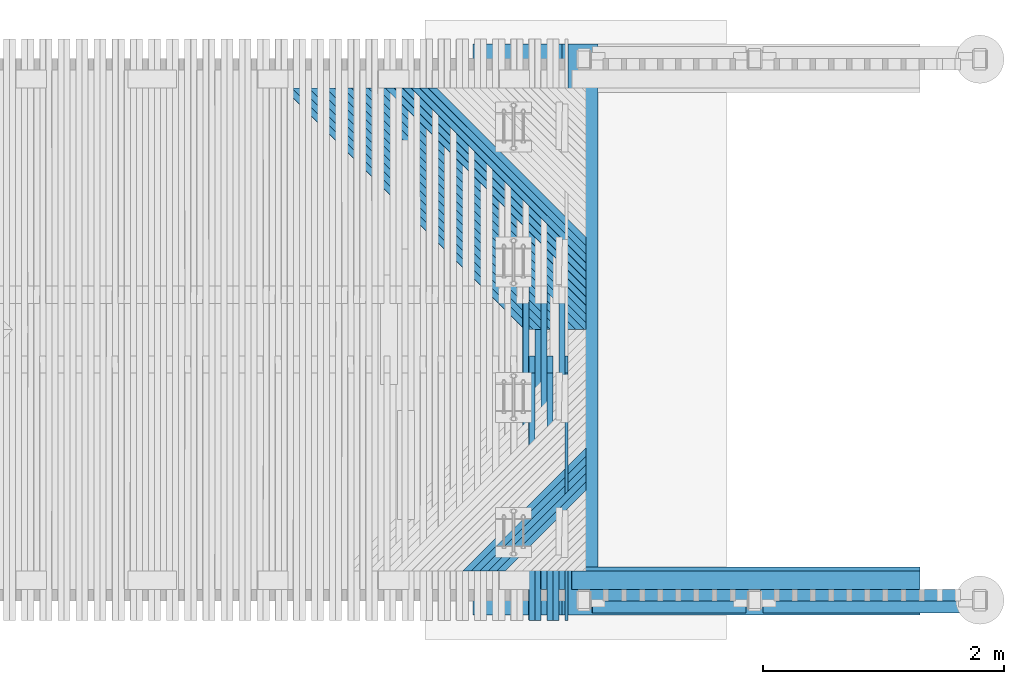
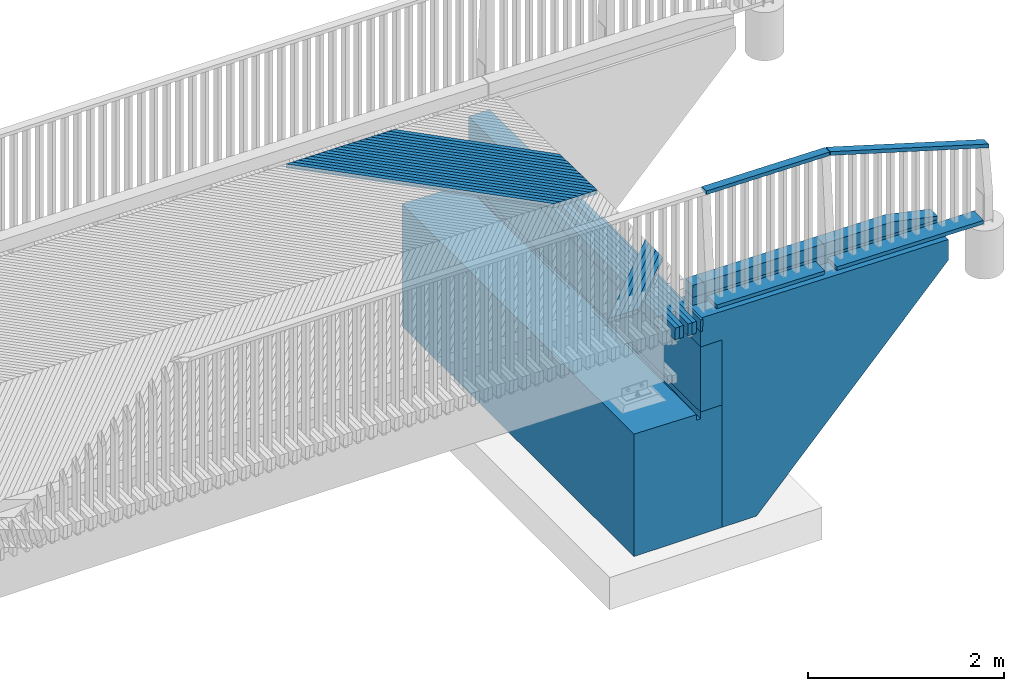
# One storey, part 42 of 47: 40 beams.
"""IFC2X3 building model written with IfcOpenShell, lengths in millimetres."""

import ifcopenshell
import ifcopenshell.guid

model = None  # the IFC model being written
_history = None  # IfcOwnerHistory: only IFC2X3 demands one
_inside = {}  # id of a spatial element -> (the spatial element, [elements in it])
_under = {}  # id of a project, library or spatial element -> (it, [spatial elements below it])
_declared = {}  # id of a project -> (the project, [libraries it declares])
_typed = {}  # id of a type object -> (the type object, [elements of that type])
_made_of = {}  # id of a material, layer set ... -> (it, [elements and type objects made of it])


def new_model(schema):
    """Start an empty IFC model of exactly this schema.

    Asked for "IFC4X3", IfcOpenShell would pick the latest addendum, in which some entities
    have other attributes; the version numbers below select the first issue.
    IFC2X3 requires an IfcOwnerHistory on every rooted entity: one is made here for all.
    """
    global model, _history
    if schema == "IFC4X3":
        model = ifcopenshell.file(schema_version=(4, 3, 0, 0))
    else:
        model = ifcopenshell.file(schema=schema)
    _inside.clear()
    _under.clear()
    _declared.clear()
    _typed.clear()
    _made_of.clear()
    _history = None
    if model.schema == "IFC2X3":
        org = make("IfcOrganization", Name="unknown")
        user = make(
            "IfcPersonAndOrganization",
            ThePerson=make("IfcPerson", FamilyName="unknown"),
            TheOrganization=org,
        )
        app = make(
            "IfcApplication",
            ApplicationDeveloper=org,
            Version="unknown",
            ApplicationFullName="unknown",
            ApplicationIdentifier="unknown",
        )
        _history = make(
            "IfcOwnerHistory",
            OwningUser=user,
            OwningApplication=app,
            ChangeAction="ADDED",
            CreationDate=0,
        )
    return model


def make(cls, **values):
    """One entity of the class cls with the attributes given. An attribute that is None is left unset."""
    return model.create_entity(
        cls, **{name: value for name, value in values.items() if value is not None}
    )


def rooted(cls, **values):
    """An entity with a GlobalId (a new one), such as an element, a storey or a relation."""
    return make(cls, GlobalId=ifcopenshell.guid.new(), OwnerHistory=_history, **values)


def si_unit(unit_type, name, prefix=None):
    """IfcSIUnit, for example si_unit("LENGTHUNIT", "METRE", prefix="MILLI")."""
    return make("IfcSIUnit", UnitType=unit_type, Prefix=prefix, Name=name)


def assignment(units):
    """IfcUnitAssignment: the units of a project."""
    return None if units is None else make("IfcUnitAssignment", Units=units)


def point(xyz):
    """IfcCartesianPoint."""
    return None if xyz is None else make("IfcCartesianPoint", Coordinates=xyz)


def direction(xyz):
    """IfcDirection."""
    return None if xyz is None else make("IfcDirection", DirectionRatios=xyz)


def frame(location, z_axis=None, x_axis=None):
    """IfcAxis2Placement3D, a coordinate frame: its origin and axes. An axis left out is left unset."""
    return make(
        "IfcAxis2Placement3D",
        Location=point(location),
        Axis=direction(z_axis),
        RefDirection=direction(x_axis),
    )


def origin_with_axes():
    """The frame at (0, 0, 0) with the z axis (0, 0, 1) and the x axis (1, 0, 0) written out."""
    return frame((0.0, 0.0, 0.0), z_axis=(0.0, 0.0, 1.0), x_axis=(1.0, 0.0, 0.0))


def place(relative_to, where):
    """IfcLocalPlacement: puts the frame where relative to a parent placement (None: the world)."""
    return make(
        "IfcLocalPlacement", PlacementRelTo=relative_to, RelativePlacement=where
    )


def context(
    kind, dimensions, precision=None, world=None, true_north=None, identifier=None
):
    """IfcGeometricRepresentationContext, for example the 3D "Model" context."""
    return make(
        "IfcGeometricRepresentationContext",
        ContextIdentifier=identifier,
        ContextType=kind,
        CoordinateSpaceDimension=dimensions,
        Precision=precision,
        WorldCoordinateSystem=world,
        TrueNorth=true_north,
    )


def subcontext(parent, identifier, kind, view, scale=None):
    """IfcGeometricRepresentationSubContext, for example "Body" below "Model"."""
    return make(
        "IfcGeometricRepresentationSubContext",
        ContextIdentifier=identifier,
        ContextType=kind,
        ParentContext=parent,
        TargetScale=scale,
        TargetView=view,
    )


def project(units=None, contexts=None):
    """IfcProject with its units and contexts."""
    return rooted(
        "IfcProject",
        Name="project",
        RepresentationContexts=contexts,
        UnitsInContext=assignment(units),
    )


def spatial(cls, under=None, at=None, **own):
    """A site, building, storey or space (cls), placed at a placement, below another one or the project."""
    s = rooted(cls, ObjectPlacement=at, **own)
    if under is not None:
        _under.setdefault(under.id(), (under, []))[1].append(s)
    return s


def faces_of(points, faces, orient=None, outer=None):
    """IfcFace entities. A face is a list of loops; a loop is a list of indices into points, from 0.

    orient and outer hold one flag for each loop. By default every Orientation is true, the
    first loop of a face is its IfcFaceOuterBound and the others are IfcFaceBound.
    """
    made = []
    for i, loops in enumerate(faces):
        bounds = []
        for j, loop in enumerate(loops):
            is_outer = j == 0 if outer is None else outer[i][j]
            bounds.append(
                make(
                    "IfcFaceOuterBound" if is_outer else "IfcFaceBound",
                    Bound=make("IfcPolyLoop", Polygon=[points[k] for k in loop]),
                    Orientation=True if orient is None else orient[i][j],
                )
            )
        made.append(make("IfcFace", Bounds=bounds))
    return made


def faceted_brep(points, faces, orient=None, outer=None, voids=None):
    """IfcFacetedBrep: a solid bounded by flat faces; with voids (closed shells), ...WithVoids."""
    shared = [point(p) for p in points]
    hull = make("IfcClosedShell", CfsFaces=faces_of(shared, faces, orient, outer))
    if voids is None:
        return make("IfcFacetedBrep", Outer=hull)
    return make(
        "IfcFacetedBrepWithVoids",
        Outer=hull,
        Voids=[
            make(cls, CfsFaces=faces_of(shared, fs, o, b)) for cls, fs, o, b in voids
        ],
    )


def shape(context_of_items, identifier, shape_type, items):
    """IfcShapeRepresentation: the items that make up one representation, for example the "Body"."""
    return make(
        "IfcShapeRepresentation",
        ContextOfItems=context_of_items,
        RepresentationIdentifier=identifier,
        RepresentationType=shape_type,
        Items=items,
    )


def material(Name=None, Category=None):
    """IfcMaterial."""
    return make("IfcMaterial", Name=Name, Category=Category)


def made_of(thing, what):
    """Note that an element or type object is made of a material, layer set ...; save() writes the relation."""
    if what is not None:
        _made_of.setdefault(what.id(), (what, []))[1].append(thing)
    return thing


def type_object(cls, material=None, **own):
    """A type object (cls), such as IfcWallType, which elements share."""
    return made_of(rooted(cls, **own), material)


def element(
    cls,
    number,
    at=None,
    inside=None,
    cuts=None,
    type_object=None,
    material=None,
    context=None,
    identifier="Body",
    shape_type=None,
    held_by="IfcProductDefinitionShape",
    body=None,
    shapes=None,
    **own,
):
    """One element of the class cls, such as IfcWall. Its Tag is "e" and its number.

    at: its placement. inside: the storey or other place that contains it. cuts: it is an
    opening in that element (IfcRelVoidsElement). A single representation is given by context,
    identifier, shape_type and body (its items); several are given by shapes. held_by: the class
    of the entity that holds the representations. save() writes the other relations.
    """
    e = rooted(cls, Tag="e%d" % number, ObjectPlacement=at, **own)
    if body is not None:
        shapes = [shape(context, identifier, shape_type, body)]
    if shapes is not None:
        e.Representation = make(held_by, Representations=shapes)
    if inside is not None:
        _inside.setdefault(inside.id(), (inside, []))[1].append(e)
    if cuts is not None:
        rooted(
            "IfcRelVoidsElement", RelatingBuildingElement=cuts, RelatedOpeningElement=e
        )
    if type_object is not None:
        _typed.setdefault(type_object.id(), (type_object, []))[1].append(e)
    return made_of(e, material)


def aggregate(whole, parts):
    """IfcRelAggregates: a whole, such as a stair, and the parts it consists of."""
    return rooted("IfcRelAggregates", RelatingObject=whole, RelatedObjects=parts)


def save(model, path):
    """Write the relations noted so far, then the file.

    IfcRelAggregates (storeys below a building ...), IfcRelContainedInSpatialStructure (elements
    in a storey), IfcRelDefinesByType, IfcRelAssociatesMaterial and IfcRelDeclares: one each for
    every whole, place, type object, material and project.
    """
    for whole, parts in _under.values():
        aggregate(whole, parts)
    for where, things in _inside.values():
        rooted(
            "IfcRelContainedInSpatialStructure",
            RelatedElements=things,
            RelatingStructure=where,
        )
    for kind, things in _typed.values():
        rooted("IfcRelDefinesByType", RelatedObjects=things, RelatingType=kind)
    for what, things in _made_of.values():
        rooted("IfcRelAssociatesMaterial", RelatedObjects=things, RelatingMaterial=what)
    for by, libraries in _declared.values():
        rooted("IfcRelDeclares", RelatingContext=by, RelatedDefinitions=libraries)
    model.write(path)


model = new_model("IFC2X3")

# Units and contexts
model_context = context("Model", 3, precision=1e-05, world=origin_with_axes())
body_context = subcontext(model_context, "Body", "Model", "MODEL_VIEW")
ifc_project = project(units=[si_unit("LENGTHUNIT", "METRE", prefix="MILLI"), si_unit("AREAUNIT", "SQUARE_METRE"), si_unit("VOLUMEUNIT", "CUBIC_METRE"), si_unit("MASSUNIT", "GRAM", prefix="KILO"), si_unit("TIMEUNIT", "SECOND"), si_unit("PLANEANGLEUNIT", "RADIAN"), si_unit("SOLIDANGLEUNIT", "STERADIAN"), si_unit("THERMODYNAMICTEMPERATUREUNIT", "DEGREE_CELSIUS"), si_unit("LUMINOUSINTENSITYUNIT", "LUMEN")], contexts=[model_context])

# Site, building, storey
site_placement = place(None, origin_with_axes())
site = spatial("IfcSite", under=ifc_project, at=site_placement, Name="Undefined", CompositionType="ELEMENT")
building_placement = place(site_placement, origin_with_axes())
building = spatial("IfcBuilding", under=site, at=building_placement, Name="Undefined", CompositionType="ELEMENT")
storey_placement = place(building_placement, origin_with_axes())
storey = spatial("IfcBuildingStorey", under=building, at=storey_placement, Name="Undefined", CompositionType="ELEMENT", Elevation=0.0)

# Beams
ifc_material_1 = material(Name="TIMBER/Timber_Undefined")
beam_type_1 = type_object("IfcBeamType", Name="95*45", PredefinedType="NOTDEFINED")
beam_1_placement = place(storey_placement, frame((18047.3455816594, 60167.5120919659, 4509.17778679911), z_axis=(0.0, -1.0, 0.0), x_axis=(-0.999901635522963, 0.0, 0.0140256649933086)))
element("IfcBeam", 1, at=beam_1_placement, inside=storey, type_object=beam_type_1, material=ifc_material_1, Name="YLÄJOHDE", ObjectType="95*45", context=body_context, shape_type="Brep", body=[
    faceted_brep([(10.030991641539, 22.4999999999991, -47.5), (10.030991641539, 22.4999999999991, 47.5), (1460.17402369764, 22.4999999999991, 47.5), (1460.17402369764, 22.4999999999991, -47.5), (10.662208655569, -22.5, 47.5), (1460.80524071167, -22.5, 47.5), (10.662208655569, -22.5, -47.5), (1460.80524071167, -22.5, -47.5)], [[[0, 1, 2, 3]], [[1, 4, 5, 2]], [[4, 6, 7, 5]], [[6, 0, 3, 7]], [[5, 7, 3, 2]], [[6, 4, 1, 0]]]),
])
beam_2_placement = place(storey_placement, frame((18040.5964588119, 60167.5099640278, 4510.12573356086), z_axis=(0.0, -1.0, 0.0), x_axis=(0.958249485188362, 0.0, -0.285933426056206)))
element("IfcBeam", 2, at=beam_2_placement, inside=storey, type_object=beam_type_1, material=ifc_material_1, Name="YLÄJOHDE", ObjectType="95*45", context=body_context, shape_type="Brep", body=[
    faceted_brep([(4.00216176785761e-05, 22.5000000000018, -47.5), (4.00216176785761e-05, 22.5000000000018, 47.5), (1946.25728182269, 22.5000000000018, 47.5), (1946.25728182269, 22.5000000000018, -47.5), (13.4276539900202, -22.4999999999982, 47.5), (1959.6848957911, -22.4999999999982, 47.5), (13.4276539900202, -22.4999999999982, -47.5), (1959.6848957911, -22.4999999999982, -47.5)], [[[0, 1, 2, 3]], [[1, 4, 5, 2]], [[4, 6, 7, 5]], [[6, 0, 3, 7]], [[5, 7, 3, 2]], [[6, 4, 1, 0]]]),
])
beam_type_2 = type_object("IfcBeamType", Name="195*45", PredefinedType="NOTDEFINED")
beam_3_placement = place(storey_placement, frame((19791.7186980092, 60117.5099700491, 3105.29183869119), z_axis=(0.0, -1.0, 0.0), x_axis=(-0.999901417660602, 0.0, 0.0140411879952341)))
element("IfcBeam", 3, at=beam_3_placement, inside=storey, type_object=beam_type_2, material=ifc_material_1, Name="BEAM", ObjectType="195*45", context=body_context, shape_type="Brep", body=[
    faceted_brep([(0.0, 22.5, -97.5), (0.0, 22.5, 97.5), (1724.99699880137, 22.5, 97.5), (1724.99699880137, 22.5, -97.5), (0.0, -22.5, 97.5), (1724.99699880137, -22.4999999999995, 97.5), (0.0, -22.5, -97.5), (1724.99699880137, -22.4999999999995, -97.5)], [[[0, 1, 2, 3]], [[1, 4, 5, 2]], [[4, 6, 7, 5]], [[6, 0, 3, 7]], [[5, 7, 3, 2]], [[6, 4, 1, 0]]]),
])
beam_4_placement = place(storey_placement, frame((17926.6993513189, 60117.5099700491, 3131.48945565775), z_axis=(0.0, -1.0, 0.0), x_axis=(-0.999901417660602, 0.0, 0.0140411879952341)))
element("IfcBeam", 4, at=beam_4_placement, inside=storey, type_object=beam_type_2, material=ifc_material_1, Name="BEAM", ObjectType="195*45", context=body_context, shape_type="Brep", body=[
    faceted_brep([(0.0, 22.5, -97.5), (0.0, 22.5, 97.5), (1275.1508080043, 22.5, 97.5), (1275.1508080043, 22.5, -97.5), (0.0, -22.5, 97.5), (1275.15080800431, -22.4999999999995, 97.5), (0.0, -22.5, -97.5), (1275.15080800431, -22.4999999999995, -97.5)], [[[0, 1, 2, 3]], [[1, 4, 5, 2]], [[4, 6, 7, 5]], [[6, 0, 3, 7]], [[5, 7, 3, 2]], [[6, 4, 1, 0]]]),
])
beam_type_3 = type_object("IfcBeamType", Name="150*100", PredefinedType="NOTDEFINED")
beam_5_placement = place(storey_placement, frame((19364.0305880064, 60289.9999999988, 3118.6757290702), z_axis=(0.0, -1.0, 0.0), x_axis=(-0.999904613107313, 0.0, 0.0138117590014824)))
element("IfcBeam", 5, at=beam_5_placement, inside=storey, type_object=beam_type_3, material=ifc_material_1, Name="TÖRMÄYSJOHDE", ObjectType="150*100", context=body_context, shape_type="Brep", body=[
    faceted_brep([(-3.63797880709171e-12, 50.0, -75.0), (-3.63797880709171e-12, 50.0, 75.0), (2885.27521749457, 50.0, 75.0), (2885.27521749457, 50.0, -75.0), (0.0, -49.9999999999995, 75.0), (2885.27521749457, -49.9999999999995, 75.0), (0.0, -49.9999999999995, -75.0), (2885.27521749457, -49.9999999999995, -75.0)], [[[0, 1, 2, 3]], [[1, 4, 5, 2]], [[4, 6, 7, 5]], [[6, 0, 3, 7]], [[5, 7, 3, 2]], [[6, 4, 1, 0]]]),
])
beam_type_4 = type_object("IfcBeamType", Name="150*150", PredefinedType="NOTDEFINED")
beam_6_placement = place(storey_placement, frame((19366.0358819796, 60289.9999999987, 3243.66334439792), z_axis=(0.0, -1.0, 0.0), x_axis=(-0.999904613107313, 0.0, 0.0138117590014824)))
element("IfcBeam", 6, at=beam_6_placement, inside=storey, type_object=beam_type_4, material=ifc_material_1, Name="TÖRMÄYSJOHDE", ObjectType="150*150", context=body_context, shape_type="Brep", body=[
    faceted_brep([(2885.27521749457, -74.9999999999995, 75.0), (2885.27521749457, -74.9999999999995, -75.0), (2885.27521749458, 75.0, -75.0), (2885.27521749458, 75.0, 75.0), (3.63797880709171e-12, 75.0000000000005, -75.0), (3.63797880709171e-12, 75.0000000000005, 75.0), (3.63797880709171e-12, 33.1222400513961, -75.0), (3.63797880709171e-12, 33.1222400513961, 75.0), (529.511118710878, -75.0, 75.0), (529.511118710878, -75.0, -75.0)], [[[0, 1, 2, 3]], [[4, 5, 3, 2]], [[5, 4, 6, 7]], [[0, 3, 5, 7, 8]], [[1, 0, 8, 9]], [[4, 2, 1, 9, 6]], [[8, 7, 6, 9]]]),
])
ifc_material_2 = material(Name="CONCRETE/Concrete_Undefined")
beam_type_5 = type_object("IfcBeamType", Name="2800*400", PredefinedType="NOTDEFINED")
beam_7_placement = place(storey_placement, frame((16430.3400332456, 60200.0, 1712.66804762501), z_axis=(0.0140428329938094, 0.0, 0.999901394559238), x_axis=(0.999901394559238, 0.0, -0.0140428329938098)))
element("IfcBeam", 7, at=beam_7_placement, inside=storey, type_object=beam_type_5, material=ifc_material_2, Name="SIIPIMUURI", ObjectType="2800*400", context=body_context, shape_type="Brep", body=[
    faceted_brep([(5.63100911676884e-07, 200.0, 1400.0), (0.280884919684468, -200.000000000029, 1380.0), (2915.56834818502, -200.0, 1380.0), (2915.28746382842, 200.0, 1400.0), (270.457242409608, 199.999999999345, -54.8754727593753), (270.457242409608, -200.0, -54.8754727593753), (255.29098277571, -200.0, 1025.01803336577), (255.29098277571, 199.999999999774, 1025.01803336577), (288.066954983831, 200.0, -1308.75182153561), (288.066954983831, -200.0, -1308.75182153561), (697.173583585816, 200.0, -1303.00623892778), (697.173583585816, -200.0, -1303.00623892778), (2919.22031514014, 200.0, 1119.96651154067), (2919.22031514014, -200.0, 1119.96651154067), (5.31563413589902, -200.0, 1021.50732511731), (5.31563413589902, 199.999999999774, 1021.50732511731)], [[[0, 1, 2, 3]], [[4, 5, 6, 7]], [[8, 9, 5, 4]], [[10, 11, 9, 8]], [[12, 13, 11, 10]], [[13, 12, 3, 2]], [[14, 6, 5, 9, 11, 13, 2, 1]], [[7, 6, 14, 15]], [[3, 12, 10, 8, 4, 7, 15, 0]], [[15, 14, 1, 0]]]),
])
beam_type_6 = type_object("IfcBeamType", Name="810*250", PredefinedType="NOTDEFINED")
beam_8_placement = place(storey_placement, frame((16575.0, 60000.0, 2329.0), z_axis=(0.0, 0.0, 1.0), x_axis=(0.0, 1.0, 0.0)))
element("IfcBeam", 8, at=beam_8_placement, inside=storey, type_object=beam_type_6, material=ifc_material_2, Name="OTSAMUURI", ObjectType="810*250", context=body_context, shape_type="Brep", body=[
    faceted_brep([(0.0, 125.0, -405.0), (0.0, 125.0, 405.0), (4730.0, 125.0, 405.0), (4730.0, 125.0, -405.0), (0.0, -125.0, 405.0), (4730.0, -125.0, 405.0), (0.0, -125.0, -405.0), (4730.0, -125.0, -405.0)], [[[0, 1, 2, 3]], [[1, 4, 5, 2]], [[4, 6, 7, 5]], [[6, 0, 3, 7]], [[5, 7, 3, 2]], [[6, 4, 1, 0]]]),
])
beam_type_7 = type_object("IfcBeamType", Name="1524*1035", PredefinedType="NOTDEFINED")
beam_9_placement = place(storey_placement, frame((16182.5, 60000.0, 1162.0), z_axis=(0.0, 0.0, 1.0), x_axis=(0.0, 1.0, 0.0)))
element("IfcBeam", 9, at=beam_9_placement, inside=storey, type_object=beam_type_7, material=ifc_material_2, Name="LAAKERIPALKKI", ObjectType="1524*1035", context=body_context, shape_type="Brep", body=[
    faceted_brep([(4730.0, -217.5, 747.0), (2367.30822656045, -217.5, 747.0), (2367.55223388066, -217.5, 737.442575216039), (4730.0, -217.5, 676.997414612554), (2367.55223388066, -267.5, 737.442575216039), (4730.0, -267.5, 676.997414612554), (4730.0, -267.5, 762.0), (2366.92526672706, -267.5, 762.0), (4730.0, 517.5, -762.0), (0.0, 517.5, -762.0), (0.0, 517.5, 762.0), (4730.0, 517.5, 762.0), (0.0, -517.5, -762.0), (4730.0, -517.5, -762.0), (0.0, -517.5, 762.0), (4730.0, -517.5, 762.0), (2363.07473327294, -267.5, 762.0), (0.0, -267.5, 762.0), (0.0, -267.5, 676.997414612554), (0.0, -217.5, 676.997414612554), (0.0, -217.5, 747.0), (2362.45109111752, -267.5, 737.312339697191), (2362.45109111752, -217.5, 737.312339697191), (2362.69177343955, -217.5, 747.0)], [[[0, 1, 2, 3]], [[3, 2, 4, 5]], [[6, 5, 4, 7]], [[8, 9, 10, 11]], [[12, 9, 8, 13]], [[14, 12, 13, 15]], [[16, 17, 14, 15, 6, 7]], [[9, 12, 14, 17, 18, 19, 20, 10]], [[16, 7, 4, 21, 18, 17]], [[18, 21, 4, 2, 22, 19]], [[20, 19, 22, 2, 1, 23]], [[11, 10, 20, 23, 1, 0]], [[15, 13, 8, 11, 0, 3, 5, 6]]]),
])
beam_type_8 = type_object("IfcBeamType", Name="150*50", PredefinedType="NOTDEFINED")
beam_10_placement = place(storey_placement, frame((16451.1846639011, 59958.5561921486, 3028.66243681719), z_axis=(0.0139555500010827, -0.0199960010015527, 0.99970265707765), x_axis=(0.000278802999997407, 0.999800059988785, 0.0199940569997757)))
element("IfcBeam", 10, at=beam_10_placement, inside=storey, type_object=beam_type_8, material=ifc_material_1, Name="BEAM", ObjectType="150*50", context=body_context, shape_type="Brep", body=[
    faceted_brep([(-6.19911588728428e-09, 25.0, 75.0), (6.18456397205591e-09, 24.9999999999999, -75.0), (-1.82408257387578e-08, -0.906727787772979, -74.9999999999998), (1.82335497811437e-08, 0.174188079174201, 75.0), (2047.96936058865, 0.468714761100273, 75.0), (2047.96935975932, 25.0, 75.0), (2186.42645864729, 25.0, -75.0), (2186.42645910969, -0.592289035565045, -74.9999999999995)], [[[0, 1, 2, 3]], [[0, 3, 4, 5]], [[1, 0, 5, 6]], [[2, 1, 6, 7]], [[3, 2, 7, 4]], [[6, 5, 4, 7]]]),
])
beam_11_placement = place(storey_placement, frame((16401.1758960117, 60216.5046076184, 3034.52066157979), z_axis=(0.0139555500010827, -0.0199960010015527, 0.99970265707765), x_axis=(0.000278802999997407, 0.999800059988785, 0.0199940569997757)))
element("IfcBeam", 11, at=beam_11_placement, inside=storey, type_object=beam_type_8, material=ifc_material_1, Name="BEAM", ObjectType="150*50", context=body_context, shape_type="Brep", body=[
    faceted_brep([(6.18456397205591e-09, -24.9999999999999, -75.0000000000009), (-6.1918399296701e-09, -24.9999999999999, 74.9999999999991), (-6.19911588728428e-09, 25.0, 75.0), (6.18456397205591e-09, 24.9999999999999, -75.0), (2375.00494220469, 24.9999999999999, -75.0000000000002), (2375.00494218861, -25.0, -75.0), (2510.59248711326, -25.0, 60.5875455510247), (2150.42518973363, -25.0, 75.0000000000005), (2150.42518840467, 25.0, 74.9999999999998), (2510.59248707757, 25.0, 60.5875454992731)], [[[0, 1, 2, 3]], [[0, 3, 4, 5]], [[1, 0, 5, 6, 7]], [[2, 1, 7, 8]], [[4, 3, 2, 8, 9]], [[5, 4, 9, 6]], [[8, 7, 6, 9]]]),
])
beam_12_placement = place(storey_placement, frame((16351.2041883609, 59958.5561921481, 3030.05660612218), z_axis=(0.0138731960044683, -0.0199960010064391, 0.99970380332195), x_axis=(0.000277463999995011, 0.999800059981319, 0.0199940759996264)))
element("IfcBeam", 12, at=beam_12_placement, inside=storey, type_object=beam_type_8, material=ifc_material_1, Name="BEAM", ObjectType="150*50", context=body_context, shape_type="Brep", body=[
    faceted_brep([(6.18456397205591e-09, -24.9999999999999, -75.0000000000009), (-6.1918399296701e-09, -24.9999999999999, 74.9999999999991), (-6.19911588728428e-09, 25.0, 75.0), (6.18456397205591e-09, 24.9999999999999, -75.0), (2633.00494983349, 25.0000000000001, -75.0000000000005), (2633.00495050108, -24.9999999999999, -75.0000000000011), (2768.59248707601, -25.0, 60.5875366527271), (2408.42499905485, -25.0, 74.9999999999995), (2408.42501428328, 25.0000000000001, 74.9999999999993), (2768.5924870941, 25.0, 60.5875375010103)], [[[0, 1, 2, 3]], [[0, 3, 4, 5]], [[1, 0, 5, 6, 7]], [[2, 1, 7, 8]], [[4, 3, 2, 8, 9]], [[5, 4, 9, 6]], [[8, 7, 6, 9]]]),
])
beam_13_placement = place(storey_placement, frame((16301.1704246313, 59958.5561921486, 3030.75005682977), z_axis=(0.0137063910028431, -0.0199960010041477, 0.999706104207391), x_axis=(0.000273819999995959, 0.999800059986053, 0.0199941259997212)))
element("IfcBeam", 13, at=beam_13_placement, inside=storey, type_object=beam_type_8, material=ifc_material_1, Name="BEAM", ObjectType="150*50", context=body_context, shape_type="Brep", body=[
    faceted_brep([(6.18456397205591e-09, -24.9999999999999, -75.0000000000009), (-6.1918399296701e-09, -24.9999999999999, 74.9999999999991), (-6.19911588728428e-09, 25.0, 75.0), (6.18456397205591e-09, 24.9999999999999, -75.0), (2047.96936034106, -25.0000000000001, 75.0), (2047.96935975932, 25.0, 75.0), (2186.42645864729, 25.0, -75.0), (2186.42645915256, -25.0000000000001, -75.0)], [[[0, 1, 2, 3]], [[2, 1, 4, 5]], [[3, 2, 5, 6]], [[0, 3, 6, 7]], [[1, 0, 7, 4]], [[4, 7, 6, 5]]]),
])
beam_14_placement = place(storey_placement, frame((16251.1601982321, 60216.5046076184, 3036.59581757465), z_axis=(0.0137063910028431, -0.0199960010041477, 0.999706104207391), x_axis=(0.000273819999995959, 0.999800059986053, 0.0199941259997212)))
element("IfcBeam", 14, at=beam_14_placement, inside=storey, type_object=beam_type_8, material=ifc_material_1, Name="BEAM", ObjectType="150*50", context=body_context, shape_type="Brep", body=[
    faceted_brep([(6.18456397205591e-09, -24.9999999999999, -75.0000000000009), (-6.1918399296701e-09, -24.9999999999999, 74.9999999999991), (-6.19911588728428e-09, 25.0, 75.0), (6.18456397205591e-09, 24.9999999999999, -75.0), (2375.00494220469, 24.9999999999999, -75.0000000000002), (2375.00494218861, -25.0, -75.0), (2510.59248711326, -25.0, 60.5875455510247), (2150.42518973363, -25.0, 75.0000000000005), (2150.42518840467, 25.0, 74.9999999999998), (2510.59248707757, 25.0, 60.5875454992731)], [[[0, 1, 2, 3]], [[0, 3, 4, 5]], [[1, 0, 5, 6, 7]], [[2, 1, 7, 8]], [[4, 3, 2, 8, 9]], [[5, 4, 9, 6]], [[8, 7, 6, 9]]]),
])
beam_15_placement = place(storey_placement, frame((16201.1896047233, 59958.5561921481, 3032.11930765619), z_axis=(0.0136240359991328, -0.0199960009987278, 0.999707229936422), x_axis=(0.000272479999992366, 0.999800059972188, 0.0199941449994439)))
element("IfcBeam", 15, at=beam_15_placement, inside=storey, type_object=beam_type_8, material=ifc_material_1, Name="BEAM", ObjectType="150*50", context=body_context, shape_type="Brep", body=[
    faceted_brep([(6.18456397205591e-09, -24.9999999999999, -75.0000000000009), (-6.1918399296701e-09, -24.9999999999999, 74.9999999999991), (-6.19911588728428e-09, 25.0, 75.0), (6.18456397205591e-09, 24.9999999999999, -75.0), (2633.00494983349, 25.0000000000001, -75.0000000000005), (2633.00495050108, -24.9999999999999, -75.0000000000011), (2768.59248707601, -25.0, 60.5875366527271), (2408.42499905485, -25.0, 74.9999999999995), (2408.42501428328, 25.0000000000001, 74.9999999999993), (2768.5924870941, 25.0, 60.5875375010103)], [[[0, 1, 2, 3]], [[0, 3, 4, 5]], [[1, 0, 5, 6, 7]], [[2, 1, 7, 8]], [[4, 3, 2, 8, 9]], [[5, 4, 9, 6]], [[8, 7, 6, 9]]]),
])
beam_16_placement = place(storey_placement, frame((16151.1556697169, 59958.5561921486, 3032.80028827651), z_axis=(0.013457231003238, -0.0199960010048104, 0.99970948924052), x_axis=(0.000268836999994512, 0.999800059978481, 0.0199941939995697)))
element("IfcBeam", 16, at=beam_16_placement, inside=storey, type_object=beam_type_8, material=ifc_material_1, Name="BEAM", ObjectType="150*50", context=body_context, shape_type="Brep", body=[
    faceted_brep([(6.18456397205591e-09, -24.9999999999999, -75.0000000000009), (-6.1918399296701e-09, -24.9999999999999, 74.9999999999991), (-6.19911588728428e-09, 25.0, 75.0), (6.18456397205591e-09, 24.9999999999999, -75.0), (2047.96936034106, -25.0000000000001, 75.0), (2047.96935975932, 25.0, 75.0), (2186.42645864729, 25.0, -75.0), (2186.42645915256, -25.0000000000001, -75.0)], [[[0, 1, 2, 3]], [[2, 1, 4, 5]], [[3, 2, 5, 6]], [[0, 3, 6, 7]], [[1, 0, 7, 4]], [[4, 7, 6, 5]]]),
])
beam_17_placement = place(storey_placement, frame((16101.1439879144, 60216.5046076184, 3038.63358464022), z_axis=(0.013457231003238, -0.0199960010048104, 0.99970948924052), x_axis=(0.000268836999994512, 0.999800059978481, 0.0199941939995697)))
element("IfcBeam", 17, at=beam_17_placement, inside=storey, type_object=beam_type_8, material=ifc_material_1, Name="BEAM", ObjectType="150*50", context=body_context, shape_type="Brep", body=[
    faceted_brep([(6.18456397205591e-09, -24.9999999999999, -75.0000000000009), (-6.1918399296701e-09, -24.9999999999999, 74.9999999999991), (-6.19911588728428e-09, 25.0, 75.0), (6.18456397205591e-09, 24.9999999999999, -75.0), (2375.00494220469, 24.9999999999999, -75.0000000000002), (2375.00494218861, -25.0, -75.0), (2510.59248711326, -25.0, 60.5875455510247), (2150.42518973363, -25.0, 75.0000000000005), (2150.42518840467, 25.0, 74.9999999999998), (2510.59248707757, 25.0, 60.5875454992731)], [[[0, 1, 2, 3]], [[0, 3, 4, 5]], [[1, 0, 5, 6, 7]], [[2, 1, 7, 8]], [[4, 3, 2, 8, 9]], [[5, 4, 9, 6]], [[8, 7, 6, 9]]]),
])
beam_type_9 = type_object("IfcBeamType", Name="50*50", PredefinedType="NOTDEFINED")
beam_18_placement = place(storey_placement, frame((17895.3052888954, 62364.5001003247, 3154.80495489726), z_axis=(0.706807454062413, -0.706981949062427, -0.0244897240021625), x_axis=(-0.707254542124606, -0.706948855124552, -0.00378535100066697)))
element("IfcBeam", 18, at=beam_18_placement, inside=storey, type_object=beam_type_9, material=ifc_material_1, Name="BEAM", ObjectType="50*50", context=body_context, shape_type="Brep", body=[
    faceted_brep([(2802.92643296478, -25.0000000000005, 25.0000000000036), (2852.92877373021, -25.0000000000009, -24.9999999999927), (2854.34301907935, 24.9999999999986, -24.9999999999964), (2804.3406783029, 24.9999999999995, 25.0000000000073), (1805.95401836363, 24.9999999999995, -25.0000000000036), (1855.9224110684, 24.9999999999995, 25.0), (1856.95717342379, -25.0, 24.9999999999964), (1806.98878071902, -25.0000000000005, -24.9999999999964)], [[[0, 1, 2, 3]], [[3, 2, 4, 5]], [[0, 3, 5, 6]], [[1, 0, 6, 7]], [[2, 1, 7, 4]], [[6, 5, 4, 7]]]),
])
beam_19_placement = place(storey_placement, frame((17824.5905388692, 62364.5001003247, 3155.96311087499), z_axis=(0.706810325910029, -0.706981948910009, -0.0244067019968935), x_axis=(-0.707254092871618, -0.706948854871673, -0.00386842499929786)))
element("IfcBeam", 19, at=beam_19_placement, inside=storey, type_object=beam_type_9, material=ifc_material_1, Name="BEAM", ObjectType="50*50", context=body_context, shape_type="Brep", body=[
    faceted_brep([(2802.92643296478, -25.0000000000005, 25.0000000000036), (2852.92877373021, -25.0000000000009, -24.9999999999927), (2854.34301907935, 24.9999999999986, -24.9999999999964), (2804.3406783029, 24.9999999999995, 25.0000000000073), (1705.97428604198, 24.9999999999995, -25.0), (1755.94291351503, 24.9999999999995, 25.0), (1756.96937511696, -25.0, 24.9999999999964), (1707.00074764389, -25.0, -25.0000000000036)], [[[0, 1, 2, 3]], [[3, 2, 4, 5]], [[0, 3, 5, 6]], [[1, 0, 6, 7]], [[2, 1, 7, 4]], [[6, 5, 4, 7]]]),
])
beam_20_placement = place(storey_placement, frame((17753.8756532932, 62364.5001003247, 3157.11296064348), z_axis=(0.706813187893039, -0.706981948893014, -0.0243236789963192), x_axis=(-0.707253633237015, -0.706948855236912, -0.00395150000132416)))
element("IfcBeam", 20, at=beam_20_placement, inside=storey, type_object=beam_type_9, material=ifc_material_1, Name="BEAM", ObjectType="50*50", context=body_context, shape_type="Brep", body=[
    faceted_brep([(2802.92643296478, -25.0000000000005, 25.0000000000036), (2852.92877373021, -25.0000000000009, -24.9999999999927), (2854.34301907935, 24.9999999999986, -24.9999999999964), (2804.3406783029, 24.9999999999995, 25.0000000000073), (1605.99425901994, 25.0, -25.0000000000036), (1655.96312129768, 25.0000000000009, 25.0000000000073), (1656.98128205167, -25.0, 25.0000000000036), (1607.01241977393, -24.9999999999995, -25.0000000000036)], [[[0, 1, 2, 3]], [[3, 2, 4, 5]], [[0, 3, 5, 6]], [[1, 0, 6, 7]], [[2, 1, 7, 4]], [[6, 5, 4, 7]]]),
])
beam_21_placement = place(storey_placement, frame((17683.1606331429, 62364.5001003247, 3158.25450418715), z_axis=(0.706816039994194, -0.706981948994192, -0.0242406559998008), x_axis=(-0.707253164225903, -0.706948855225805, -0.0040345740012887)))
element("IfcBeam", 21, at=beam_21_placement, inside=storey, type_object=beam_type_9, material=ifc_material_1, Name="BEAM", ObjectType="50*50", context=body_context, shape_type="Brep", body=[
    faceted_brep([(2802.92643296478, -25.0000000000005, 25.0000000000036), (2852.92877373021, -25.0000000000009, -24.9999999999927), (2854.34301907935, 24.9999999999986, -24.9999999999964), (2804.3406783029, 24.9999999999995, 25.0000000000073), (1506.01393205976, 25.0000000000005, -24.9999999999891), (1555.98302910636, 25.0, 25.0000000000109), (1556.99288906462, -25.0, 25.0000000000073), (1507.02379201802, -24.9999999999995, -24.9999999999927)], [[[0, 1, 2, 3]], [[3, 2, 4, 5]], [[0, 3, 5, 6]], [[1, 0, 6, 7]], [[2, 1, 7, 4]], [[6, 5, 4, 7]]]),
])
beam_22_placement = place(storey_placement, frame((17612.4454793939, 62364.5001003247, 3159.38774149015), z_axis=(0.706818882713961, -0.706981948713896, -0.0241576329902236), x_axis=(-0.70725268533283, -0.706948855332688, -0.00411764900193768)))
element("IfcBeam", 22, at=beam_22_placement, inside=storey, type_object=beam_type_9, material=ifc_material_1, Name="BEAM", ObjectType="50*50", context=body_context, shape_type="Brep", body=[
    faceted_brep([(2802.92643296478, -25.0000000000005, 25.0000000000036), (2852.92877373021, -25.0000000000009, -24.9999999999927), (2854.34301907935, 24.9999999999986, -24.9999999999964), (2804.3406783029, 24.9999999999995, 25.0000000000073), (1406.03330360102, 25.0000000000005, -25.0), (1456.00263545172, 24.9999999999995, 24.9999999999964), (1457.0041945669, -25.0000000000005, 25.0000000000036), (1407.03486271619, -24.9999999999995, -25.0)], [[[0, 1, 2, 3]], [[3, 2, 4, 5]], [[0, 3, 5, 6]], [[1, 0, 6, 7]], [[2, 1, 7, 4]], [[6, 5, 4, 7]]]),
])
beam_23_placement = place(storey_placement, frame((17329.583547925, 62365.4998996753, 3163.83762798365), z_axis=(0.706830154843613, 0.706981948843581, -0.0238255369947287), x_axis=(-0.70725067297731, 0.706948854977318, -0.00444994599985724)))
element("IfcBeam", 23, at=beam_23_placement, inside=storey, type_object=beam_type_9, material=ifc_material_1, Name="BEAM", ObjectType="50*50", context=body_context, shape_type="Brep", body=[
    faceted_brep([(2804.34067830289, -24.9999999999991, 25.0), (2854.34301907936, -24.9999999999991, -25.0), (2852.92877373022, 25.0000000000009, -25.0), (2802.92643296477, 25.0000000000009, 25.0), (1057.04634223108, 24.9999999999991, 25.0000000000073), (1056.07798651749, -25.0000000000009, 25.0000000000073), (1006.1077155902, -25.0000000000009, -25.0000000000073), (1007.07607130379, 24.9999999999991, -25.0000000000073)], [[[0, 1, 2, 3]], [[0, 3, 4, 5]], [[1, 0, 5, 6]], [[2, 1, 6, 7]], [[3, 2, 7, 4]], [[6, 5, 4, 7]]]),
])
beam_24_placement = place(storey_placement, frame((17258.8677408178, 62365.4998996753, 3164.92933385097), z_axis=(0.706832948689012, 0.706981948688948, -0.0237425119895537), x_axis=(-0.707250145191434, 0.706948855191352, -0.00453302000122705)))
element("IfcBeam", 24, at=beam_24_placement, inside=storey, type_object=beam_type_9, material=ifc_material_1, Name="BEAM", ObjectType="50*50", context=body_context, shape_type="Brep", body=[
    faceted_brep([(2804.34067830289, -24.9999999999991, 25.0), (2854.34301907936, -24.9999999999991, -25.0), (2852.92877373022, 25.0000000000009, -25.0), (2802.92643296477, 25.0000000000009, 25.0), (957.056097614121, 25.0, 25.0000000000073), (956.096042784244, -25.0, 25.0), (906.12553705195, -25.0, -25.0), (907.085591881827, 25.0, -24.9999999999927)], [[[0, 1, 2, 3]], [[0, 3, 4, 5]], [[1, 0, 5, 6]], [[2, 1, 6, 7]], [[3, 2, 7, 4]], [[6, 5, 4, 7]]]),
])
beam_25_placement = place(storey_placement, frame((17188.1518059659, 62365.4998996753, 3166.01273338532), z_axis=(0.706835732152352, 0.706981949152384, -0.0236594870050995), x_axis=(-0.707249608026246, 0.706948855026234, -0.00461609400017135)))
element("IfcBeam", 25, at=beam_25_placement, inside=storey, type_object=beam_type_9, material=ifc_material_1, Name="BEAM", ObjectType="50*50", context=body_context, shape_type="Brep", body=[
    faceted_brep([(2804.34067830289, -24.9999999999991, 25.0), (2854.34301907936, -24.9999999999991, -25.0), (2852.92877373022, 25.0000000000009, -25.0), (2802.92643296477, 25.0000000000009, 25.0), (857.065534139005, 25.0, 25.0), (856.113780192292, -25.0, 25.0), (806.143039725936, -24.9999999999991, -24.9999999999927), (807.094793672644, 25.0, -25.0000000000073)], [[[0, 1, 2, 3]], [[0, 3, 4, 5]], [[1, 0, 5, 6]], [[2, 1, 6, 7]], [[3, 2, 7, 4]], [[6, 5, 4, 7]]]),
])
beam_26_placement = place(storey_placement, frame((17117.4357443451, 62365.4998996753, 3167.08782657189), z_axis=(0.706838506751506, 0.706981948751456, -0.0235764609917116), x_axis=(-0.707249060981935, 0.706948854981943, -0.00469916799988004)))
element("IfcBeam", 26, at=beam_26_placement, inside=storey, type_object=beam_type_9, material=ifc_material_1, Name="BEAM", ObjectType="50*50", context=body_context, shape_type="Brep", body=[
    faceted_brep([(2804.34067830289, -24.9999999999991, 25.0), (2854.34301907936, -24.9999999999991, -25.0), (2852.92877373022, 25.0000000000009, -25.0), (2802.92643296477, 25.0000000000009, 25.0), (757.074649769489, 25.0000000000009, 25.0000000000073), (756.131196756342, -25.0, 25.0), (706.160221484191, -25.0, -24.9999999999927), (707.103674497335, 25.0, -25.0000000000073)], [[[0, 1, 2, 3]], [[0, 3, 4, 5]], [[1, 0, 5, 6]], [[2, 1, 6, 7]], [[3, 2, 7, 4]], [[6, 5, 4, 7]]]),
])
beam_27_placement = place(storey_placement, frame((17046.7195569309, 62365.4998996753, 3168.15461339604), z_axis=(0.706841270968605, 0.706981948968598, -0.0234934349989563), x_axis=(-0.707248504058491, 0.706948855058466, -0.00478224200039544)))
element("IfcBeam", 27, at=beam_27_placement, inside=storey, type_object=beam_type_9, material=ifc_material_1, Name="BEAM", ObjectType="50*50", context=body_context, shape_type="Brep", body=[
    faceted_brep([(2804.34067830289, -24.9999999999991, 25.0), (2854.34301907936, -24.9999999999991, -25.0), (2852.92877373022, 25.0000000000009, -25.0), (2802.92643296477, 25.0000000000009, 25.0), (657.083441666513, 25.0000000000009, 25.0000000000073), (656.14828958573, -24.9999999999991, 25.0000000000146), (606.177079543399, -24.9999999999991, -24.9999999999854), (607.112231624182, 25.0000000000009, -24.9999999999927)], [[[0, 1, 2, 3]], [[0, 3, 4, 5]], [[1, 0, 5, 6]], [[2, 1, 6, 7]], [[3, 2, 7, 4]], [[6, 5, 4, 7]]]),
])
beam_28_placement = place(storey_placement, frame((16976.0032446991, 62365.4998996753, 3169.21309384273), z_axis=(0.70684402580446, 0.706981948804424, -0.0234104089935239), x_axis=(-0.707247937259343, 0.706948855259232, -0.00486531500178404)))
element("IfcBeam", 28, at=beam_28_placement, inside=storey, type_object=beam_type_9, material=ifc_material_1, Name="BEAM", ObjectType="50*50", context=body_context, shape_type="Brep", body=[
    faceted_brep([(2804.34067830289, -24.9999999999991, 25.0), (2854.34301907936, -24.9999999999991, -25.0), (2852.92877373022, 25.0000000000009, -25.0), (2802.92643296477, 25.0000000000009, 25.0), (557.091907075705, 25.0, 25.0), (556.165055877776, -24.9999999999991, 25.0), (506.193611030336, -24.9999999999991, -25.0), (507.120462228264, 25.0000000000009, -24.9999999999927)], [[[0, 1, 2, 3]], [[0, 3, 4, 5]], [[1, 0, 5, 6]], [[2, 1, 6, 7]], [[3, 2, 7, 4]], [[6, 5, 4, 7]]]),
])
beam_29_placement = place(storey_placement, frame((16905.2868086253, 62365.4998996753, 3170.26326789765), z_axis=(0.706846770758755, 0.70698194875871, -0.0233273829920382), x_axis=(-0.707247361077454, 0.706948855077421, -0.00494838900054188)))
element("IfcBeam", 29, at=beam_29_placement, inside=storey, type_object=beam_type_9, material=ifc_material_1, Name="BEAM", ObjectType="50*50", context=body_context, shape_type="Brep", body=[
    faceted_brep([(2804.34067830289, -24.9999999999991, 25.0), (2854.34301907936, -24.9999999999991, -25.0), (2852.92877373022, 25.0000000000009, -25.0), (2802.92643296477, 25.0000000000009, 25.0), (457.100042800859, 25.0000000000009, 25.0000000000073), (456.181492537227, -25.0, 25.0000000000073), (406.209812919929, -24.9999999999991, -25.0), (407.128363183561, 25.0000000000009, -25.0)], [[[0, 1, 2, 3]], [[0, 3, 4, 5]], [[1, 0, 5, 6]], [[2, 1, 6, 7]], [[3, 2, 7, 4]], [[6, 5, 4, 7]]]),
])
beam_30_placement = place(storey_placement, frame((16834.5702496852, 62365.4998996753, 3171.30513554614), z_axis=(0.706849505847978, 0.706981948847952, -0.023244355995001), x_axis=(-0.707246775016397, 0.70694885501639, -0.0050314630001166)))
element("IfcBeam", 30, at=beam_30_placement, inside=storey, type_object=beam_type_9, material=ifc_material_1, Name="BEAM", ObjectType="50*50", context=body_context, shape_type="Brep", body=[
    faceted_brep([(2804.34067830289, -24.9999999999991, 25.0), (2854.34301907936, -24.9999999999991, -25.0), (2852.92877373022, 25.0000000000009, -25.0), (2802.92643296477, 25.0000000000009, 25.0), (357.10784649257, 24.9999999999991, 25.0), (356.197597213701, -25.0000000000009, 25.0000000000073), (306.22568282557, -25.0000000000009, -24.9999999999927), (307.135932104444, 24.9999999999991, -25.0)], [[[0, 1, 2, 3]], [[0, 3, 4, 5]], [[1, 0, 5, 6]], [[2, 1, 6, 7]], [[3, 2, 7, 4]], [[6, 5, 4, 7]]]),
])
beam_31_placement = place(storey_placement, frame((16763.8535688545, 62365.4998996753, 3172.33869677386), z_axis=(0.706852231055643, 0.706981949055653, -0.0231613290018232), x_axis=(-0.707246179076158, 0.706948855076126, -0.0051145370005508)))
element("IfcBeam", 31, at=beam_31_placement, inside=storey, type_object=beam_type_9, material=ifc_material_1, Name="BEAM", ObjectType="50*50", context=body_context, shape_type="Brep", body=[
    faceted_brep([(2804.34067830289, -24.9999999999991, 25.0), (2854.34301907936, -24.9999999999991, -25.0), (2852.92877373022, 25.0000000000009, -25.0), (2802.92643296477, 25.0000000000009, 25.0), (257.115315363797, 24.9999999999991, 25.0000000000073), (256.21336707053, -25.0000000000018, 25.0000000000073), (206.241217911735, -25.0000000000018, -24.9999999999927), (207.143166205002, 24.9999999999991, -24.9999999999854)], [[[0, 1, 2, 3]], [[0, 3, 4, 5]], [[1, 0, 5, 6]], [[2, 1, 6, 7]], [[3, 2, 7, 4]], [[6, 5, 4, 7]]]),
])
beam_32_placement = place(storey_placement, frame((16693.1367671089, 62365.4998996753, 3173.36395156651), z_axis=(0.706854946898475, 0.706981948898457, -0.0230783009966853), x_axis=(-0.707245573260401, 0.70694885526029, -0.00519761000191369)))
element("IfcBeam", 32, at=beam_32_placement, inside=storey, type_object=beam_type_9, material=ifc_material_1, Name="BEAM", ObjectType="50*50", context=body_context, shape_type="Brep", body=[
    faceted_brep([(2804.34067830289, -24.9999999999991, 25.0), (2854.34301907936, -24.9999999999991, -25.0), (2852.92877373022, 25.0000000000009, -25.0), (2802.92643296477, 25.0000000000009, 25.0), (157.122446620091, 25.0, 25.0), (156.228799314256, -25.0, 25.0), (106.256415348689, -25.0, -24.9999999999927), (107.150062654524, 25.0, -24.9999999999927)], [[[0, 1, 2, 3]], [[0, 3, 4, 5]], [[1, 0, 5, 6]], [[2, 1, 6, 7]], [[3, 2, 7, 4]], [[6, 5, 4, 7]]]),
])
beam_33_placement = place(storey_placement, frame((16622.419845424, 62365.4998996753, 3174.38089991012), z_axis=(0.70685765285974, 0.706981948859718, -0.0229952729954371), x_axis=(-0.707244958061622, 0.706948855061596, -0.00528068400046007)))
element("IfcBeam", 33, at=beam_33_placement, inside=storey, type_object=beam_type_9, material=ifc_material_1, Name="BEAM", ObjectType="50*50", context=body_context, shape_type="Brep", body=[
    faceted_brep([(25.0011701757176, -25.0, -24.9999999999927), (23.5869248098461, 25.0, -25.0), (2852.92877373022, 25.0000000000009, -25.0), (2854.34301907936, -24.9999999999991, -25.0), (2804.34067830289, -24.9999999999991, 25.0), (2802.92643296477, 25.0000000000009, 25.0), (57.1292373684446, 25.0000000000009, 25.0), (56.2438911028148, -24.9999999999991, 25.0), (15.6334371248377, -24.9999999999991, -15.6327054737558), (15.3693294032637, 25.0, -16.7827892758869)], [[[0, 1, 2, 3]], [[4, 3, 2, 5]], [[4, 5, 6, 7]], [[0, 3, 4, 7, 8]], [[1, 0, 8, 9]], [[5, 2, 1, 9, 6]], [[8, 7, 6, 9]]]),
])
for number, where, z_axis, x_axis, name in (
    (34, (16551.7028047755, 62365.4998996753, 3175.38954179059), (0.706860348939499, 0.70698194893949, -0.0229122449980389), (-0.707244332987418, 0.706948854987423, -0.00536375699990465), "BEAM"),
    (35, (16480.9856461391, 62365.4998996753, 3176.38987719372), (0.706863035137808, 0.706981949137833, -0.0228292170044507), (-0.707243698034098, 0.706948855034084, -0.00544683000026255), "BEAM"),
    (36, (16410.2683704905, 62365.4998996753, 3177.38190610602), (0.706865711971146, 0.706981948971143, -0.0227461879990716), (-0.707243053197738, 0.706948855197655, -0.00552990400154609), "BEAM"),
    (37, (16339.5509788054, 62365.4998996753, 3178.36562851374), (0.706868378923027, 0.706981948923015, -0.0226631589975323), (-0.707242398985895, 0.7069488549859, -0.00561297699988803), "BEAM"),
    (38, (16268.8334720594, 62365.4998996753, 3179.34104440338), (0.706871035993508, 0.706981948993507, -0.0225801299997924), (-0.707241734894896, 0.706948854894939, -0.00569604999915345), "BEAM"),
    (39, (16198.1158512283, 62365.4998996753, 3180.30815376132), (0.706873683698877, 0.706981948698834, -0.0224970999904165), (-0.707241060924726, 0.706948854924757, -0.00577912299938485), "BEAM"),
    (40, (16127.3981172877, 62365.4998996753, 3181.26695657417), (0.706876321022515, 0.706981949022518, -0.0224140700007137), (-0.707240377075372, 0.706948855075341, -0.00586219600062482), "BEAM"),
):
    element("IfcBeam", number, at=place(storey_placement, frame(where, z_axis=z_axis, x_axis=x_axis)), inside=storey, type_object=beam_type_9, material=ifc_material_1, Name=name, ObjectType="50*50", context=body_context, shape_type="Brep", body=[
        faceted_brep([(23.5869248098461, 25.0, -25.0), (-26.4154158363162, 25.0, 25.0), (2802.92643296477, 25.0000000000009, 25.0), (2852.92877373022, 25.0000000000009, -25.0), (-25.0011704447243, -25.0, 24.9999999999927), (2804.34067830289, -24.9999999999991, 25.0), (25.0011701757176, -25.0, -24.9999999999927), (2854.34301907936, -24.9999999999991, -25.0)], [[[0, 1, 2, 3]], [[1, 4, 5, 2]], [[4, 6, 7, 5]], [[6, 0, 3, 7]], [[5, 7, 3, 2]], [[6, 4, 1, 0]]]),
    ])

save(model, "model.ifc")
